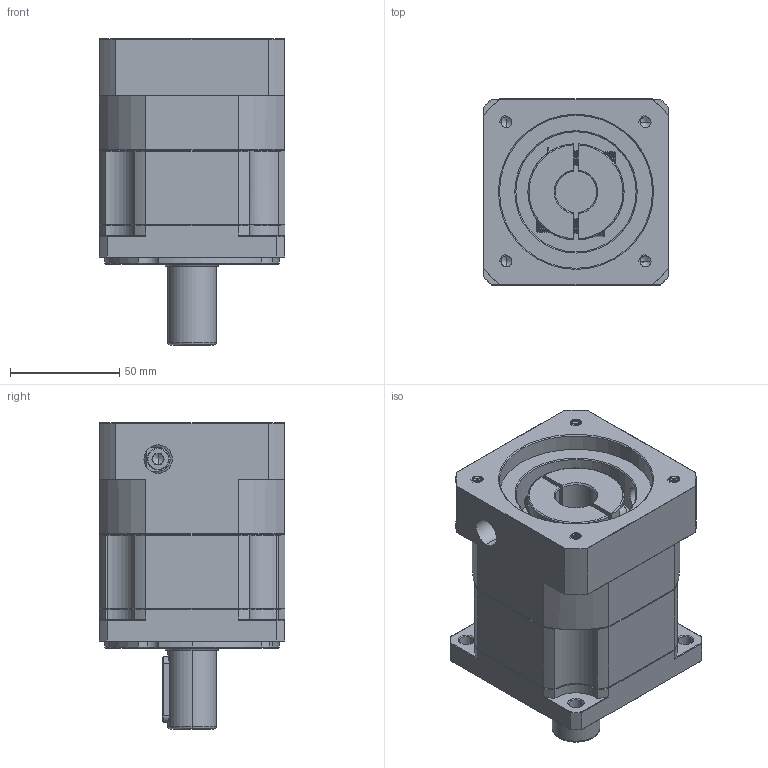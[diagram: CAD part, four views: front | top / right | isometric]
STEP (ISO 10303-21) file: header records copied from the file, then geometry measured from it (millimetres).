
FILE_DESCRIPTION (( 'STEP AP214' ), '1' );
FILE_NAME ('ZB090-D22-L1-P2-19-70-90-M6.step', '2023-08-18T12:13:04', ( '' ), ( '' ), 'SwSTEP 2.0', 'SolidWorks 2016', '' );
FILE_SCHEMA (( 'AUTOMOTIVE_DESIGN' ));
Length unit declared in the file: millimetre
Products named in the file (1): ZB090-D22-L1-P2-19-70-90-M6
Bounding box: 85 x 85 x 140 mm (x, y, z)
Volume: 610163 mm3; surface area: 85080.2 mm2
Topology: 4 solids, 4 shells, 2189 faces, 5845 edges, 3738 vertices
Faces by surface type: plane 1056, bspline 412, cylinder 390, cone 319, torus 12
Entity records: 119898 total; most frequent: CARTESIAN_POINT 44733, ORIENTED_EDGE 11646, DIRECTION 9008, EDGE_CURVE 5823, VERTEX_POINT 3738, LINE 3706, VECTOR 3706, AXIS2_PLACEMENT_3D 2651
